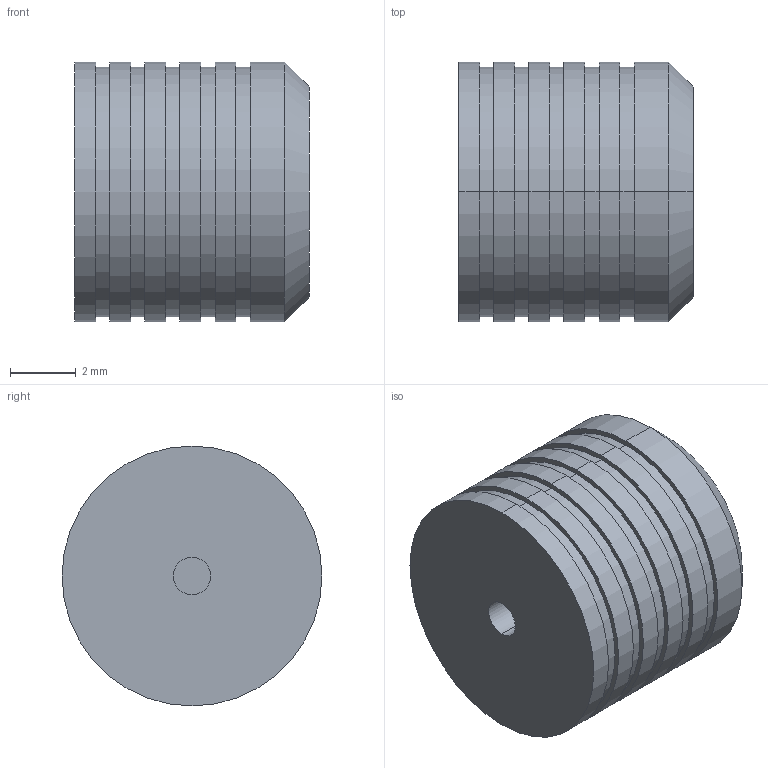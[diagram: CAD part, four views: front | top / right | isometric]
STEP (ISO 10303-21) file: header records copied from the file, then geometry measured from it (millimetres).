
FILE_DESCRIPTION (( 'STEP AP214' ), '1' );
FILE_NAME ('PLGA3120 _ _ 0A.STEP', '2020-02-19T16:00:13', ( 'tlc' ), ( 'Microsoft' ), 'SwSTEP 2.0', 'SolidWorks 2019', '' );
FILE_SCHEMA (( 'AUTOMOTIVE_DESIGN' ));
Length unit declared in the file: inch
Products named in the file (1): PLGA3120 _ _ 0A
Bounding box: 7.15 x 7.92 x 7.92 mm (x, y, z)
Volume: 332.5 mm3; surface area: 318.5 mm2
Topology: 1 solids, 1 shells, 39 faces, 76 edges, 50 vertices
Faces by surface type: cylinder 24, plane 13, cone 2
Entity records: 1064 total; most frequent: DIRECTION 206, CARTESIAN_POINT 166, ORIENTED_EDGE 152, AXIS2_PLACEMENT_3D 90, EDGE_CURVE 76, EDGE_LOOP 50, CIRCLE 50, VERTEX_POINT 50
